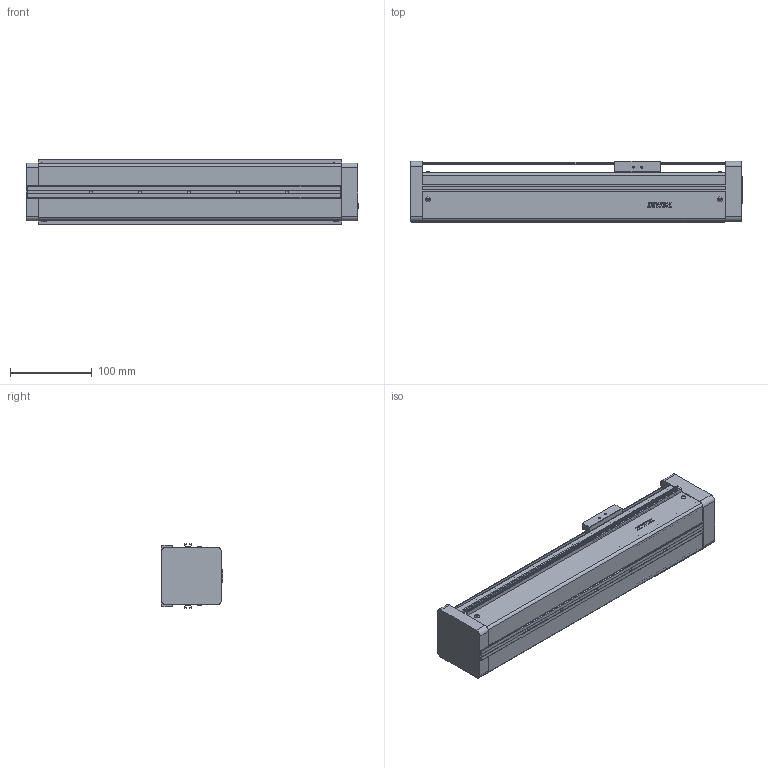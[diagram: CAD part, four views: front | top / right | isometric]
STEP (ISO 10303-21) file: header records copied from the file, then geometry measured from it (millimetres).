
FILE_DESCRIPTION(/* description */ (''),/* implementation_level */ '2;1');
FILE_NAME(/* name */ 'D:\混合母檔20191031\混和母檔\混和母檔\bin\Debug\Download\3D\KE7010C-200AF0\KE7010C-200AF0.stp',/* time_stamp */ '2019-11-04T14:07:35+08:00',/* author */ ('user'),/* organization */ (''),/* preprocessor_version */ 'ST-DEVELOPER v16.13',/* originating_system */ 'Autodesk Inventor 2018',/* authorisation */ '');
FILE_SCHEMA (('AUTOMOTIVE_DESIGN { 1 0 10303 214 3 1 1 }'));
Length unit declared in the file: millimetre
Products named in the file (3): KE7010C-200AF0; KE70-F0-BP; KE70-SL
Assembly tree (2 placements, depth 2):
  KE7010C-200AF0
    KE70-F0-BP
    KE70-SL
Bounding box: 407 x 75 x 79.4 mm (x, y, z)
Volume: 1688471.3 mm3; surface area: 255882.4 mm2
Topology: 2 solids, 29 shells, 812 faces, 2159 edges, 1418 vertices
Faces by surface type: plane 490, bspline 148, cylinder 103, cone 59, torus 12
Full cylindrical faces by diameter (mm): 2.459 x20, 3 x12, 3.242 x6, 3.5 x16, 4.134 x9, 5.7 x12, 6 x5, 30 x1
Entity records: 27211 total; most frequent: CARTESIAN_POINT 8690, ORIENTED_EDGE 3820, DIRECTION 3224, EDGE_CURVE 1910, VERTEX_POINT 1321, LINE 1256, VECTOR 1256, EDGE_LOOP 1017
